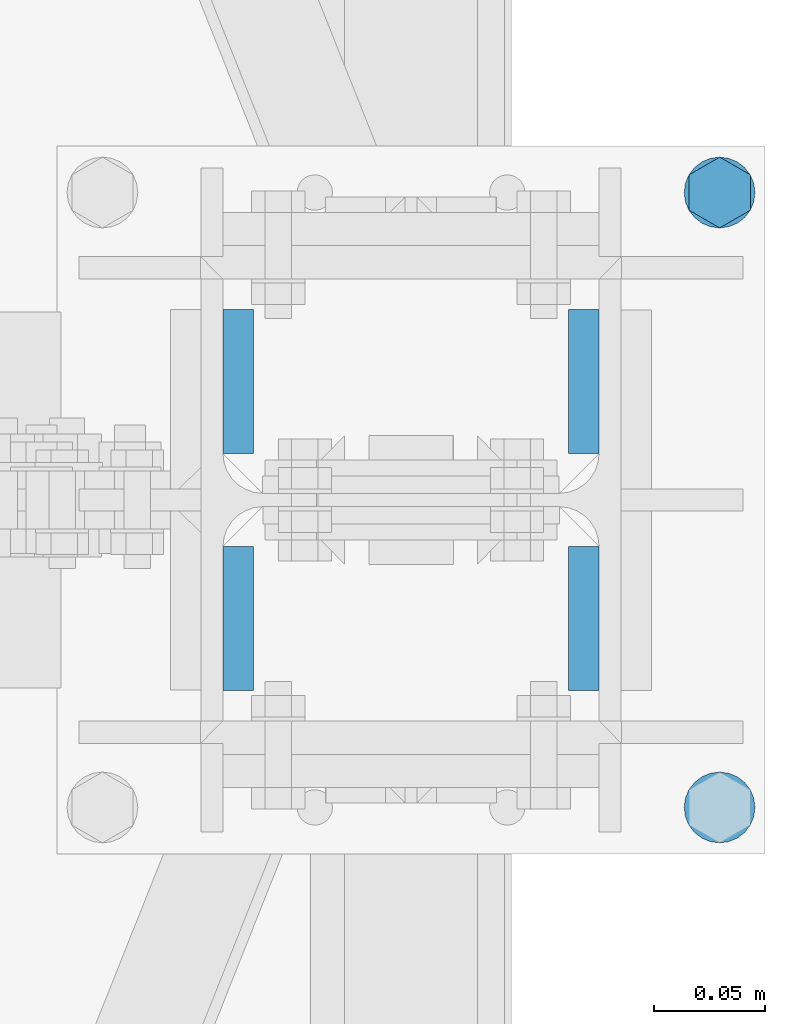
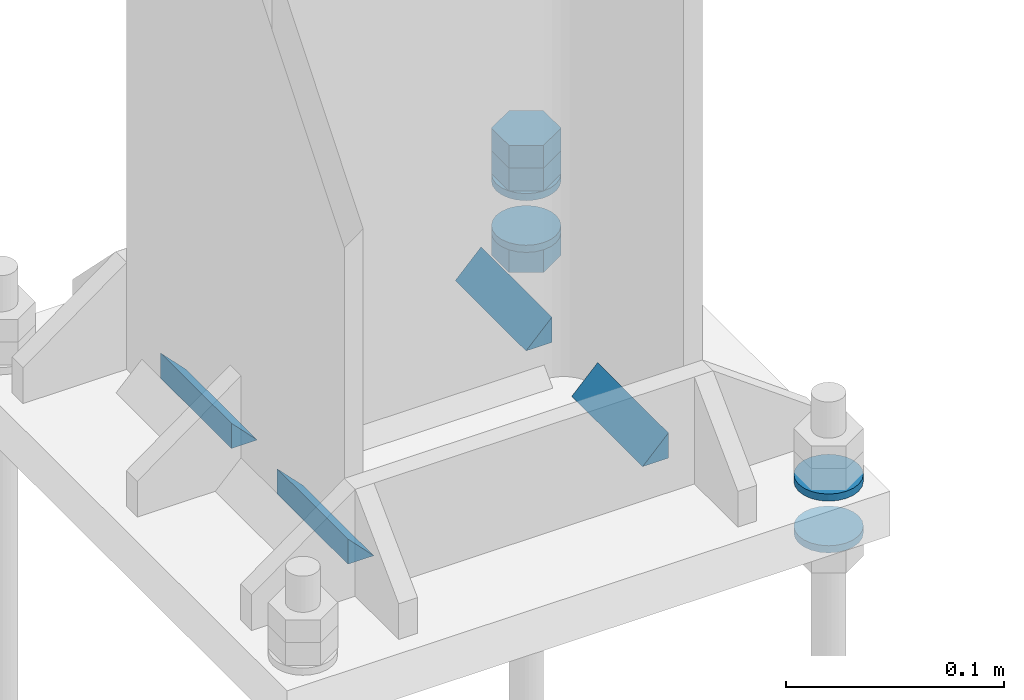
# One storey, part 186 of 251: 8 fasteners, 7 mechanical fasteners.
"""IFC4 building model written with IfcOpenShell, lengths in metres."""

from ifc_helpers import new_model, si_unit, frame, origin_with_axes, place, context, project, spatial, polyline, outline, extrude, type_object, element, save


model = new_model("IFC4")

# Units and contexts
model_context = context("Model", 3, precision=1e-05, world=origin_with_axes())
ifc_project = project(units=[si_unit("LENGTHUNIT", "METRE"), si_unit("AREAUNIT", "SQUARE_METRE"), si_unit("VOLUMEUNIT", "CUBIC_METRE"), si_unit("MASSUNIT", "GRAM", prefix="KILO"), si_unit("TIMEUNIT", "SECOND"), si_unit("PLANEANGLEUNIT", "RADIAN"), si_unit("SOLIDANGLEUNIT", "STERADIAN"), si_unit("THERMODYNAMICTEMPERATUREUNIT", "DEGREE_CELSIUS")], contexts=[model_context])

# Site, building, storey
placement_1 = place(None, origin_with_axes())
site = spatial("IfcSite", under=ifc_project, at=placement_1, Name="Italia", CompositionType="ELEMENT")
building = spatial("IfcBuilding", under=site, at=placement_1, Name="Deposito", CompositionType="ELEMENT")
storey = spatial("IfcBuildingStorey", under=building, at=placement_1, Name="Storey 0", CompositionType="ELEMENT", Elevation=0.0)

# Fasteners
fastener_type_1 = type_object("IfcFastenerType", Name="Collegamenti 0014_-001 0016_-054 0018_-056 0032_-002 0033_-058 0047_-003 0048_-060 0062_-004 0063_-005 0079_-008", PredefinedType="WELD")
placement_2 = place(placement_1, origin_with_axes())
fastener_1_placement = place(placement_2, origin_with_axes())
element("IfcFastener", 1, at=fastener_1_placement, inside=storey, type_object=fastener_type_1, Name="Collegamenti 0014_-001 0016_-054 0018_-056 0032_-002 0033_-058 0047_-003 0048_-060 0062_-004 0063_-005 0079_-008", context=model_context, shape_type="SweptSolid", body=[
    extrude(outline(polyline([(0.0, 0.0), (0.0137482, 0.0141734), (0.0137482, 0.0), (0.0, 0.0)])), frame((19.9287, 15.021, 0.07495), z_axis=(0.0, 1.0, 0.0), x_axis=(-1.0, 0.0, 0.0)), (0.0, 0.0, 1.0), 0.0650997),
])
fastener_type_2 = type_object("IfcFastenerType", Name="Collegamenti 0014_-001 0016_-054 0018_-056 0032_-002 0033_-058 0047_-003 0048_-060 0062_-004 0063_-005 0079_-008", PredefinedType="WELD")
fastener_2_placement = place(placement_2, origin_with_axes())
element("IfcFastener", 2, at=fastener_2_placement, inside=storey, type_object=fastener_type_2, Name="Collegamenti 0014_-001 0016_-054 0018_-056 0032_-002 0033_-058 0047_-003 0048_-060 0062_-004 0063_-005 0079_-008", context=model_context, shape_type="SweptSolid", body=[
    extrude(outline(polyline([(0.0, 0.0), (0.0137482, 0.0141734), (0.0137482, 0.0), (0.0, 0.0)])), frame((20.0713, 15.0861, 0.07495), z_axis=(0.0, -1.0, 0.0), x_axis=(1.0, 0.0, 0.0)), (0.0, 0.0, 1.0), 0.0650997),
])
fastener_type_3 = type_object("IfcFastenerType", Name="Collegamenti 0014_-001 0016_-054 0018_-056 0032_-002 0033_-058 0047_-003 0048_-060 0062_-004 0063_-005 0079_-008", PredefinedType="WELD")
fastener_3_placement = place(placement_2, origin_with_axes())
element("IfcFastener", 3, at=fastener_3_placement, inside=storey, type_object=fastener_type_3, Name="Collegamenti 0014_-001 0016_-054 0018_-056 0032_-002 0033_-058 0047_-003 0048_-060 0062_-004 0063_-005 0079_-008", context=model_context, shape_type="SweptSolid", body=[
    extrude(outline(polyline([(0.0, 0.0), (0.0137482, 0.0141734), (0.0137482, 0.0), (0.0, 0.0)])), frame((20.0713, 14.979, 0.07495), z_axis=(0.0, -1.0, 0.0), x_axis=(1.0, 0.0, 0.0)), (0.0, 0.0, 1.0), 0.0650997),
])
fastener_type_4 = type_object("IfcFastenerType", Name="Collegamenti 0014_-001 0016_-054 0018_-056 0032_-002 0033_-058 0047_-003 0048_-060 0062_-004 0063_-005 0079_-008", PredefinedType="WELD")
fastener_4_placement = place(placement_2, origin_with_axes())
element("IfcFastener", 4, at=fastener_4_placement, inside=storey, type_object=fastener_type_4, Name="Collegamenti 0014_-001 0016_-054 0018_-056 0032_-002 0033_-058 0047_-003 0048_-060 0062_-004 0063_-005 0079_-008", context=model_context, shape_type="SweptSolid", body=[
    extrude(outline(polyline([(0.0, 0.0), (0.0137482, 0.0141734), (0.0137482, 0.0), (0.0, 0.0)])), frame((19.9287, 14.9139, 0.07495), z_axis=(0.0, 1.0, 0.0), x_axis=(-1.0, 0.0, 0.0)), (0.0, 0.0, 1.0), 0.0650997),
])
fastener_type_5 = type_object("IfcFastenerType", Name="Collegamenti 0014_-001 0016_-054 0018_-056 0032_-002 0033_-058 0047_-003 0048_-060 0062_-004 0063_-005 0079_-008", PredefinedType="WELD")
fastener_5_placement = place(placement_2, origin_with_axes())
element("IfcFastener", 5, at=fastener_5_placement, inside=storey, type_object=fastener_type_5, Name="Collegamenti 0014_-001 0016_-054 0018_-056 0032_-002 0033_-058 0047_-003 0048_-060 0062_-004 0063_-005 0079_-008", context=model_context, shape_type="SweptSolid", body=[
    extrude(outline(polyline([(0.0, 0.0), (0.0137482, 0.0141734), (0.0137482, 0.0), (0.0, 0.0)])), frame((19.9287, 15.021, 0.07495), z_axis=(0.0, 1.0, 0.0), x_axis=(-1.0, 0.0, 0.0)), (0.0, 0.0, 1.0), 0.0650997),
])
fastener_type_6 = type_object("IfcFastenerType", Name="Collegamenti 0014_-001 0016_-054 0018_-056 0032_-002 0033_-058 0047_-003 0048_-060 0062_-004 0063_-005 0079_-008", PredefinedType="WELD")
fastener_6_placement = place(placement_2, origin_with_axes())
element("IfcFastener", 6, at=fastener_6_placement, inside=storey, type_object=fastener_type_6, Name="Collegamenti 0014_-001 0016_-054 0018_-056 0032_-002 0033_-058 0047_-003 0048_-060 0062_-004 0063_-005 0079_-008", context=model_context, shape_type="SweptSolid", body=[
    extrude(outline(polyline([(0.0, 0.0), (0.0137482, 0.0141734), (0.0137482, 0.0), (0.0, 0.0)])), frame((20.0713, 15.0861, 0.07495), z_axis=(0.0, -1.0, 0.0), x_axis=(1.0, 0.0, 0.0)), (0.0, 0.0, 1.0), 0.0650997),
])
fastener_type_7 = type_object("IfcFastenerType", Name="Collegamenti 0014_-001 0016_-054 0018_-056 0032_-002 0033_-058 0047_-003 0048_-060 0062_-004 0063_-005 0079_-008", PredefinedType="WELD")
fastener_7_placement = place(placement_2, origin_with_axes())
element("IfcFastener", 7, at=fastener_7_placement, inside=storey, type_object=fastener_type_7, Name="Collegamenti 0014_-001 0016_-054 0018_-056 0032_-002 0033_-058 0047_-003 0048_-060 0062_-004 0063_-005 0079_-008", context=model_context, shape_type="SweptSolid", body=[
    extrude(outline(polyline([(0.0, 0.0), (0.0137482, 0.0141734), (0.0137482, 0.0), (0.0, 0.0)])), frame((20.0713, 14.979, 0.07495), z_axis=(0.0, -1.0, 0.0), x_axis=(1.0, 0.0, 0.0)), (0.0, 0.0, 1.0), 0.0650997),
])
fastener_type_8 = type_object("IfcFastenerType", Name="Collegamenti 0014_-001 0016_-054 0018_-056 0032_-002 0033_-058 0047_-003 0048_-060 0062_-004 0063_-005 0079_-008", PredefinedType="WELD")
fastener_8_placement = place(placement_2, origin_with_axes())
element("IfcFastener", 8, at=fastener_8_placement, inside=storey, type_object=fastener_type_8, Name="Collegamenti 0014_-001 0016_-054 0018_-056 0032_-002 0033_-058 0047_-003 0048_-060 0062_-004 0063_-005 0079_-008", context=model_context, shape_type="SweptSolid", body=[
    extrude(outline(polyline([(0.0, 0.0), (0.0137482, 0.0141734), (0.0137482, 0.0), (0.0, 0.0)])), frame((19.9287, 14.9139, 0.07495), z_axis=(0.0, 1.0, 0.0), x_axis=(-1.0, 0.0, 0.0)), (0.0, 0.0, 1.0), 0.0650997),
])

# Mechanical fasteners
mechanical_fastener_type_1 = type_object("IfcMechanicalFastenerType", Name="Collegamenti 0014_-001 0016_-054 0018_-056 0032_-002 0033_-058 0047_-003 0048_-060 0062_-004 0063_-005 0079_-008", PredefinedType="BOLT")
mechanical_fastener_1_placement = place(placement_2, origin_with_axes())
element("IfcMechanicalFastener", 9, at=mechanical_fastener_1_placement, inside=storey, type_object=mechanical_fastener_type_1, Name="Collegamenti 0014_-001 0016_-054 0018_-056 0032_-002 0033_-058 0047_-003 0048_-060 0062_-004 0063_-005 0079_-008", NominalDiameter=0.032, context=model_context, shape_type="SweptSolid", body=[
    extrude(outline(polyline([(0.0, 0.0), (-0.000544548, -0.00414085), (-0.00214386, -0.00799942), (-0.00468636, -0.0113144), (-0.00799942, -0.0138569), (-0.0118589, -0.0154552), (-0.0159998, -0.0160007), (-0.0201406, -0.0154552), (-0.0240002, -0.0138569), (-0.0273132, -0.0113144), (-0.0298557, -0.00799942), (-0.031455, -0.00414085), (-0.0319996, 0.0), (-0.031455, 0.00414085), (-0.0298557, 0.00799942), (-0.0273132, 0.0113144), (-0.0240002, 0.0138569), (-0.0201406, 0.0154552), (-0.0159998, 0.0160007), (-0.0118589, 0.0154552), (-0.00799942, 0.0138569), (-0.00468636, 0.0113144), (-0.00214386, 0.00799942), (-0.000544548, 0.00414085), (0.0, 0.0)])), frame((20.1395, 14.877, 0.075), z_axis=(0.0, 0.0, 1.0), x_axis=(0.0, 1.0, 0.0)), (0.0, 0.0, 1.0), 0.00399999),
])
mechanical_fastener_type_2 = type_object("IfcMechanicalFastenerType", Name="Collegamenti 0014_-001 0016_-054 0018_-056 0032_-002 0033_-058 0047_-003 0048_-060 0062_-004 0063_-005 0079_-008", PredefinedType="BOLT")
mechanical_fastener_2_placement = place(placement_2, origin_with_axes())
element("IfcMechanicalFastener", 10, at=mechanical_fastener_2_placement, inside=storey, type_object=mechanical_fastener_type_2, Name="Collegamenti 0014_-001 0016_-054 0018_-056 0032_-002 0033_-058 0047_-003 0048_-060 0062_-004 0063_-005 0079_-008", NominalDiameter=0.032, context=model_context, shape_type="SweptSolid", body=[
    extrude(outline(polyline([(0.0, 0.0), (-0.000544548, -0.00414085), (-0.00214386, -0.00799942), (-0.00468636, -0.0113144), (-0.00799942, -0.0138569), (-0.0118589, -0.0154552), (-0.0159998, -0.0160007), (-0.0201406, -0.0154552), (-0.0240002, -0.0138569), (-0.0273132, -0.0113144), (-0.0298557, -0.00799942), (-0.031455, -0.00414085), (-0.0319996, 0.0), (-0.031455, 0.00414085), (-0.0298557, 0.00799942), (-0.0273132, 0.0113144), (-0.0240002, 0.0138569), (-0.0201406, 0.0154552), (-0.0159998, 0.0160007), (-0.0118589, 0.0154552), (-0.00799942, 0.0138569), (-0.00468636, 0.0113144), (-0.00214386, 0.00799942), (-0.000544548, 0.00414085), (0.0, 0.0)])), frame((20.1395, 14.877, 0.046), z_axis=(0.0, 0.0, 1.0), x_axis=(0.0, 1.0, 0.0)), (0.0, 0.0, 1.0), 0.004),
])
mechanical_fastener_type_3 = type_object("IfcMechanicalFastenerType", Name="Collegamenti 0014_-001 0016_-054 0018_-056 0032_-002 0033_-058 0047_-003 0048_-060 0062_-004 0063_-005 0079_-008", PredefinedType="BOLT")
mechanical_fastener_3_placement = place(placement_2, origin_with_axes())
element("IfcMechanicalFastener", 11, at=mechanical_fastener_3_placement, inside=storey, type_object=mechanical_fastener_type_3, Name="Collegamenti 0014_-001 0016_-054 0018_-056 0032_-002 0033_-058 0047_-003 0048_-060 0062_-004 0063_-005 0079_-008", NominalDiameter=0.0160001, context=model_context, shape_type="SweptSolid", body=[
    extrude(outline(polyline([(0.0, 0.0), (-0.0160007, 0.0), (-0.0240002, 0.0138569), (-0.0160007, 0.0277138), (0.0, 0.0277138), (0.00799942, 0.0138569), (0.0, 0.0)])), frame((20.1534, 15.147, 0.079), z_axis=(0.0, 0.0, 1.0), x_axis=(0.0, 1.0, 0.0)), (0.0, 0.0, 1.0), 0.0128),
])
mechanical_fastener_type_4 = type_object("IfcMechanicalFastenerType", Name="Collegamenti 0014_-001 0016_-054 0018_-056 0032_-002 0033_-058 0047_-003 0048_-060 0062_-004 0063_-005 0079_-008", PredefinedType="BOLT")
mechanical_fastener_4_placement = place(placement_2, origin_with_axes())
element("IfcMechanicalFastener", 12, at=mechanical_fastener_4_placement, inside=storey, type_object=mechanical_fastener_type_4, Name="Collegamenti 0014_-001 0016_-054 0018_-056 0032_-002 0033_-058 0047_-003 0048_-060 0062_-004 0063_-005 0079_-008", NominalDiameter=0.0160001, context=model_context, shape_type="SweptSolid", body=[
    extrude(outline(polyline([(0.0, 0.0), (-0.0160007, 0.0), (-0.0240002, 0.0138569), (-0.0160007, 0.0277138), (0.0, 0.0277138), (0.00799942, 0.0138569), (0.0, 0.0)])), frame((20.1534, 15.147, 0.0918), z_axis=(0.0, 0.0, 1.0), x_axis=(0.0, 1.0, 0.0)), (0.0, 0.0, 1.0), 0.0128),
])
mechanical_fastener_type_5 = type_object("IfcMechanicalFastenerType", Name="Collegamenti 0014_-001 0016_-054 0018_-056 0032_-002 0033_-058 0047_-003 0048_-060 0062_-004 0063_-005 0079_-008", PredefinedType="BOLT")
mechanical_fastener_5_placement = place(placement_2, origin_with_axes())
element("IfcMechanicalFastener", 13, at=mechanical_fastener_5_placement, inside=storey, type_object=mechanical_fastener_type_5, Name="Collegamenti 0014_-001 0016_-054 0018_-056 0032_-002 0033_-058 0047_-003 0048_-060 0062_-004 0063_-005 0079_-008", NominalDiameter=0.0160001, context=model_context, shape_type="SweptSolid", body=[
    extrude(outline(polyline([(0.0, 0.0), (-0.0160007, 0.0), (-0.0240002, 0.0138569), (-0.0160007, 0.0277138), (0.0, 0.0277138), (0.00799942, 0.0138569), (0.0, 0.0)])), frame((20.1534, 15.147, 0.0332), z_axis=(0.0, 0.0, 1.0), x_axis=(0.0, 1.0, 0.0)), (0.0, 0.0, 1.0), 0.0128),
])
mechanical_fastener_type_6 = type_object("IfcMechanicalFastenerType", Name="Collegamenti 0014_-001 0016_-054 0018_-056 0032_-002 0033_-058 0047_-003 0048_-060 0062_-004 0063_-005 0079_-008", PredefinedType="BOLT")
mechanical_fastener_6_placement = place(placement_2, origin_with_axes())
element("IfcMechanicalFastener", 14, at=mechanical_fastener_6_placement, inside=storey, type_object=mechanical_fastener_type_6, Name="Collegamenti 0014_-001 0016_-054 0018_-056 0032_-002 0033_-058 0047_-003 0048_-060 0062_-004 0063_-005 0079_-008", NominalDiameter=0.032, context=model_context, shape_type="SweptSolid", body=[
    extrude(outline(polyline([(0.0, 0.0), (-0.000544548, -0.00414085), (-0.00214386, -0.00799942), (-0.00468636, -0.0113144), (-0.00799942, -0.0138569), (-0.0118589, -0.0154552), (-0.0159998, -0.0160007), (-0.0201406, -0.0154552), (-0.0240002, -0.0138569), (-0.0273132, -0.0113144), (-0.0298557, -0.00799942), (-0.031455, -0.00414085), (-0.0319996, 0.0), (-0.031455, 0.00414085), (-0.0298557, 0.00799942), (-0.0273132, 0.0113144), (-0.0240002, 0.0138569), (-0.0201406, 0.0154552), (-0.0159998, 0.0160007), (-0.0118589, 0.0154552), (-0.00799942, 0.0138569), (-0.00468636, 0.0113144), (-0.00214386, 0.00799942), (-0.000544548, 0.00414085), (0.0, 0.0)])), frame((20.1395, 15.155, 0.075), z_axis=(0.0, 0.0, 1.0), x_axis=(0.0, 1.0, 0.0)), (0.0, 0.0, 1.0), 0.00399999),
])
mechanical_fastener_type_7 = type_object("IfcMechanicalFastenerType", Name="Collegamenti 0014_-001 0016_-054 0018_-056 0032_-002 0033_-058 0047_-003 0048_-060 0062_-004 0063_-005 0079_-008", PredefinedType="BOLT")
mechanical_fastener_7_placement = place(placement_2, origin_with_axes())
element("IfcMechanicalFastener", 15, at=mechanical_fastener_7_placement, inside=storey, type_object=mechanical_fastener_type_7, Name="Collegamenti 0014_-001 0016_-054 0018_-056 0032_-002 0033_-058 0047_-003 0048_-060 0062_-004 0063_-005 0079_-008", NominalDiameter=0.032, context=model_context, shape_type="SweptSolid", body=[
    extrude(outline(polyline([(0.0, 0.0), (-0.000544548, -0.00414085), (-0.00214386, -0.00799942), (-0.00468636, -0.0113144), (-0.00799942, -0.0138569), (-0.0118589, -0.0154552), (-0.0159998, -0.0160007), (-0.0201406, -0.0154552), (-0.0240002, -0.0138569), (-0.0273132, -0.0113144), (-0.0298557, -0.00799942), (-0.031455, -0.00414085), (-0.0319996, 0.0), (-0.031455, 0.00414085), (-0.0298557, 0.00799942), (-0.0273132, 0.0113144), (-0.0240002, 0.0138569), (-0.0201406, 0.0154552), (-0.0159998, 0.0160007), (-0.0118589, 0.0154552), (-0.00799942, 0.0138569), (-0.00468636, 0.0113144), (-0.00214386, 0.00799942), (-0.000544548, 0.00414085), (0.0, 0.0)])), frame((20.1395, 15.155, 0.046), z_axis=(0.0, 0.0, 1.0), x_axis=(0.0, 1.0, 0.0)), (0.0, 0.0, 1.0), 0.004),
])

save(model, "model.ifc")
